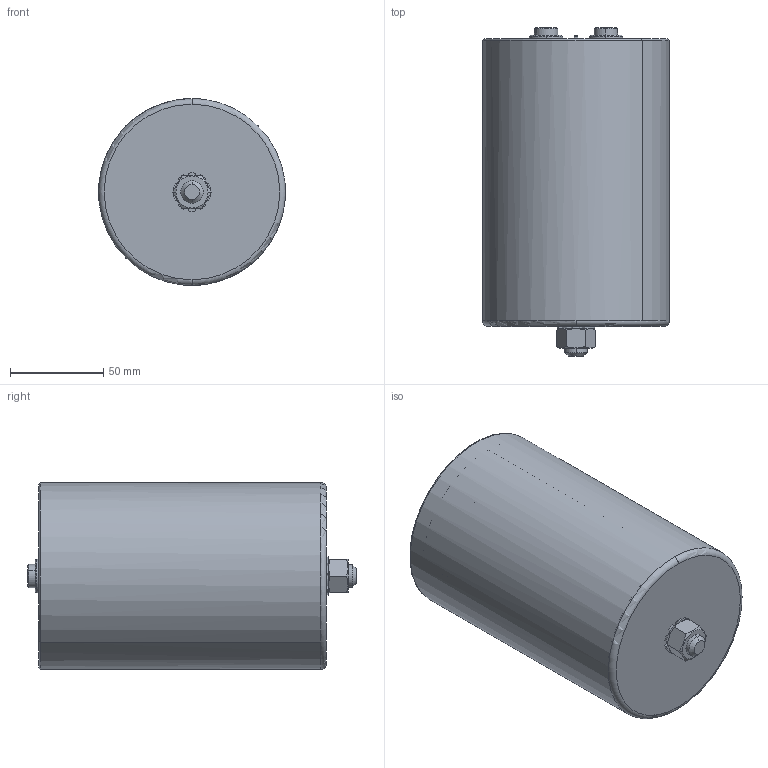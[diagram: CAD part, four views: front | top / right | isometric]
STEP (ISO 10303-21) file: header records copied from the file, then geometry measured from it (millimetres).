
FILE_DESCRIPTION (( 'STEP AP214' ), '1' );
FILE_NAME ('B25694M Series D100 Hc154 Ht160.STEP', '2025-07-24T06:47:48', ( '' ), ( '' ), 'SwSTEP 2.0', 'SolidWorks 2019', '' );
FILE_SCHEMA (( 'AUTOMOTIVE_DESIGN' ));
Length unit declared in the file: millimetre
Products named in the file (1): B25694M Series D100 Hc154 Ht160
Bounding box: 99.91 x 176 x 100 mm (x, y, z)
Volume: 108780.6 mm3; surface area: 144409.7 mm2
Topology: 1 solids, 9 shells, 395 faces, 1004 edges, 639 vertices
Faces by surface type: plane 183, cylinder 144, cone 50, torus 18
Entity records: 12333 total; most frequent: CARTESIAN_POINT 2737, DIRECTION 2045, ORIENTED_EDGE 2000, EDGE_CURVE 1000, AXIS2_PLACEMENT_3D 791, VERTEX_POINT 639, LINE 463, VECTOR 463
